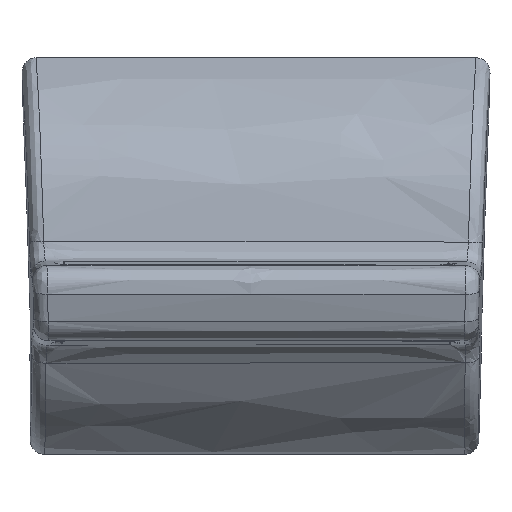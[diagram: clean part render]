
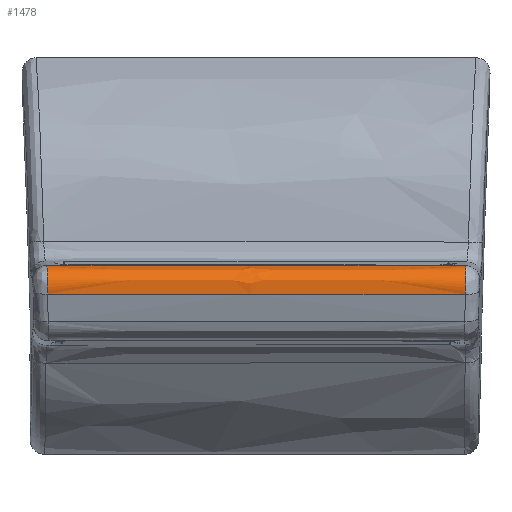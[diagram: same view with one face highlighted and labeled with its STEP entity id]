
A CAD part, left-side view. The second image highlights one B-rep face of the part: STEP entity #1478.
In plain terms, the highlighted free-form (B-spline) face has degree [5, 3] with [6, 4] control points.
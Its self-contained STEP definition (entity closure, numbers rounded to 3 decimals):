
#1344=CARTESIAN_POINT('Vertex',(-548.157,-824.555,456.24)) ;
#1348=CARTESIAN_POINT('Control Point',(-547.713,-846.04,456.239)) ;
#1349=CARTESIAN_POINT('Control Point',(-547.881,-839.092,456.243)) ;
#1350=CARTESIAN_POINT('Control Point',(-548.027,-831.915,456.243)) ;
#1351=CARTESIAN_POINT('Control Point',(-548.157,-824.555,456.24)) ;
#1352=CARTESIAN_POINT('Vertex',(-547.713,-846.04,456.239)) ;
#1356=CARTESIAN_POINT('Control Point',(-547.06,-868.706,456.219)) ;
#1357=CARTESIAN_POINT('Control Point',(-547.075,-868.277,456.22)) ;
#1358=CARTESIAN_POINT('Control Point',(-547.089,-867.85,456.22)) ;
#1359=CARTESIAN_POINT('Control Point',(-547.104,-867.422,456.221)) ;
#1360=CARTESIAN_POINT('Control Point',(-547.177,-865.207,456.223)) ;
#1361=CARTESIAN_POINT('Control Point',(-547.248,-862.976,456.226)) ;
#1362=CARTESIAN_POINT('Control Point',(-547.304,-861.166,456.228)) ;
#1363=CARTESIAN_POINT('Control Point',(-547.425,-857.091,456.232)) ;
#1364=CARTESIAN_POINT('Control Point',(-547.538,-852.968,456.235)) ;
#1365=CARTESIAN_POINT('Control Point',(-547.599,-850.672,456.237)) ;
#1366=CARTESIAN_POINT('Control Point',(-547.657,-848.363,456.238)) ;
#1367=CARTESIAN_POINT('Control Point',(-547.713,-846.04,456.239)) ;
#1368=CARTESIAN_POINT('Vertex',(-547.06,-868.706,456.219)) ;
#1408=CARTESIAN_POINT('Control Point',(-546.966,-871.438,456.216)) ;
#1409=CARTESIAN_POINT('Control Point',(-548.625,-871.349,456.129)) ;
#1410=CARTESIAN_POINT('Control Point',(-549.588,-871.247,454.771)) ;
#1411=CARTESIAN_POINT('Control Point',(-549.118,-871.209,453.182)) ;
#1412=CARTESIAN_POINT('Control Point',(-547.312,-861.634,456.228)) ;
#1413=CARTESIAN_POINT('Control Point',(-548.971,-861.524,456.142)) ;
#1414=CARTESIAN_POINT('Control Point',(-549.937,-861.374,454.783)) ;
#1415=CARTESIAN_POINT('Control Point',(-549.468,-861.299,453.195)) ;
#1416=CARTESIAN_POINT('Control Point',(-547.608,-851.529,456.239)) ;
#1417=CARTESIAN_POINT('Control Point',(-549.267,-851.561,456.151)) ;
#1418=CARTESIAN_POINT('Control Point',(-550.218,-851.624,454.8)) ;
#1419=CARTESIAN_POINT('Control Point',(-549.743,-851.671,453.205)) ;
#1420=CARTESIAN_POINT('Control Point',(-547.836,-841.717,456.244)) ;
#1421=CARTESIAN_POINT('Control Point',(-549.491,-841.734,456.157)) ;
#1422=CARTESIAN_POINT('Control Point',(-550.451,-841.755,454.799)) ;
#1423=CARTESIAN_POINT('Control Point',(-549.98,-841.766,453.211)) ;
#1424=CARTESIAN_POINT('Control Point',(-548.034,-831.847,456.244)) ;
#1425=CARTESIAN_POINT('Control Point',(-549.692,-831.878,456.157)) ;
#1426=CARTESIAN_POINT('Control Point',(-550.648,-831.905,454.803)) ;
#1427=CARTESIAN_POINT('Control Point',(-550.176,-831.908,453.211)) ;
#1428=CARTESIAN_POINT('Control Point',(-548.203,-821.885,456.239)) ;
#1429=CARTESIAN_POINT('Control Point',(-549.858,-821.982,456.152)) ;
#1430=CARTESIAN_POINT('Control Point',(-550.815,-822.097,454.796)) ;
#1431=CARTESIAN_POINT('Control Point',(-550.342,-822.142,453.206)) ;
#1433=CARTESIAN_POINT('Control Point',(-549.857,-846.04,453.206)) ;
#1434=CARTESIAN_POINT('Control Point',(-549.96,-841.758,453.208)) ;
#1435=CARTESIAN_POINT('Control Point',(-550.055,-837.47,453.209)) ;
#1436=CARTESIAN_POINT('Control Point',(-550.143,-833.177,453.21)) ;
#1437=CARTESIAN_POINT('Control Point',(-550.224,-828.895,453.209)) ;
#1438=CARTESIAN_POINT('Control Point',(-550.299,-824.628,453.207)) ;
#1439=CARTESIAN_POINT('Vertex',(-550.299,-824.628,453.207)) ;
#1441=CARTESIAN_POINT('Vertex',(-549.857,-846.04,453.206)) ;
#1445=CARTESIAN_POINT('Control Point',(-549.205,-868.702,453.186)) ;
#1446=CARTESIAN_POINT('Control Point',(-549.36,-864.143,453.191)) ;
#1447=CARTESIAN_POINT('Control Point',(-549.5,-859.627,453.196)) ;
#1448=CARTESIAN_POINT('Control Point',(-549.629,-855.109,453.2)) ;
#1449=CARTESIAN_POINT('Control Point',(-549.747,-850.579,453.204)) ;
#1450=CARTESIAN_POINT('Control Point',(-549.857,-846.04,453.206)) ;
#1451=CARTESIAN_POINT('Vertex',(-549.205,-868.702,453.186)) ;
#1455=CARTESIAN_POINT('Control Point',(-547.06,-868.706,456.219)) ;
#1456=CARTESIAN_POINT('Control Point',(-547.995,-868.712,456.17)) ;
#1457=CARTESIAN_POINT('Control Point',(-548.828,-868.719,455.782)) ;
#1458=CARTESIAN_POINT('Control Point',(-549.382,-868.734,455.006)) ;
#1459=CARTESIAN_POINT('Control Point',(-549.472,-868.719,454.086)) ;
#1460=CARTESIAN_POINT('Control Point',(-549.205,-868.702,453.186)) ;
#1463=CARTESIAN_POINT('Control Point',(-548.157,-824.555,456.24)) ;
#1464=CARTESIAN_POINT('Control Point',(-549.092,-824.572,456.191)) ;
#1465=CARTESIAN_POINT('Control Point',(-549.926,-824.594,455.804)) ;
#1466=CARTESIAN_POINT('Control Point',(-550.48,-824.606,455.026)) ;
#1467=CARTESIAN_POINT('Control Point',(-550.566,-824.617,454.106)) ;
#1468=CARTESIAN_POINT('Control Point',(-550.299,-824.628,453.207)) ;
#1471=ORIENTED_EDGE('',*,*,#1443,.T.) ;
#1472=ORIENTED_EDGE('',*,*,#1453,.T.) ;
#1473=ORIENTED_EDGE('',*,*,#1461,.F.) ;
#1474=ORIENTED_EDGE('',*,*,#1370,.T.) ;
#1475=ORIENTED_EDGE('',*,*,#1354,.T.) ;
#1476=ORIENTED_EDGE('',*,*,#1469,.T.) ;
#1478=ADVANCED_FACE('\X2\51E04F554F53\X0\.8',(#1477),#1407,.T.) ;
#1347=B_SPLINE_CURVE_WITH_KNOTS('',3,(#1348,#1349,#1350,#1351),.UNSPECIFIED.,.F.,.U.,(4,4),(0.,29.557),.UNSPECIFIED.) ;
#1355=B_SPLINE_CURVE_WITH_KNOTS('',5,(#1356,#1357,#1358,#1359,#1360,#1361,#1362,#1363,#1364,#1365,#1366,#1367),.UNSPECIFIED.,.F.,.U.,(6,3,3,6),(0.061,3.241,16.529,32.997),.UNSPECIFIED.) ;
#1454=B_SPLINE_CURVE_WITH_KNOTS('',5,(#1455,#1456,#1457,#1458,#1459,#1460),.UNSPECIFIED.,.F.,.U.,(6,6),(4.021,9.339),.UNSPECIFIED.) ;
#1462=B_SPLINE_CURVE_WITH_KNOTS('',5,(#1463,#1464,#1465,#1466,#1467,#1468),.UNSPECIFIED.,.F.,.U.,(6,6),(4.019,9.334),.UNSPECIFIED.) ;
#1407=B_SPLINE_SURFACE_WITH_KNOTS('',5,3,((#1408,#1409,#1410,#1411),(#1412,#1413,#1414,#1415),(#1416,#1417,#1418,#1419),(#1420,#1421,#1422,#1423),(#1424,#1425,#1426,#1427),(#1428,#1429,#1430,#1431)),.UNSPECIFIED.,.F.,.F.,.U.,(6,6),(4,4),(-1.023,48.278),(0.,4.984),.UNSPECIFIED.) ;
#1354=EDGE_CURVE('',#1353,#1345,#1347,.T.) ;
#1370=EDGE_CURVE('',#1369,#1353,#1355,.T.) ;
#1443=EDGE_CURVE('',#1440,#1442,#1432,.F.) ;
#1453=EDGE_CURVE('',#1442,#1452,#1444,.F.) ;
#1461=EDGE_CURVE('',#1369,#1452,#1454,.T.) ;
#1469=EDGE_CURVE('',#1345,#1440,#1462,.T.) ;
#1470=EDGE_LOOP('',(#1471,#1472,#1473,#1474,#1475,#1476)) ;
#1477=FACE_OUTER_BOUND('',#1470,.T.) ;
#1345=VERTEX_POINT('',#1344) ;
#1353=VERTEX_POINT('',#1352) ;
#1369=VERTEX_POINT('',#1368) ;
#1440=VERTEX_POINT('',#1439) ;
#1442=VERTEX_POINT('',#1441) ;
#1452=VERTEX_POINT('',#1451) ;
#1432=(BOUNDED_CURVE()B_SPLINE_CURVE(5,(#1433,#1434,#1435,#1436,#1437,#1438),.UNSPECIFIED.,.F.,.U.)B_SPLINE_CURVE_WITH_KNOTS((6,6),(24.271,45.771),.UNSPECIFIED.)CURVE()GEOMETRIC_REPRESENTATION_ITEM()RATIONAL_B_SPLINE_CURVE((1.,1.,1.,1.,1.,1.))REPRESENTATION_ITEM('')) ;
#1444=(BOUNDED_CURVE()B_SPLINE_CURVE(5,(#1445,#1446,#1447,#1448,#1449,#1450),.UNSPECIFIED.,.F.,.U.)B_SPLINE_CURVE_WITH_KNOTS((6,6),(1.479,24.271),.UNSPECIFIED.)CURVE()GEOMETRIC_REPRESENTATION_ITEM()RATIONAL_B_SPLINE_CURVE((1.,1.,1.,1.,1.,1.))REPRESENTATION_ITEM('')) ;
